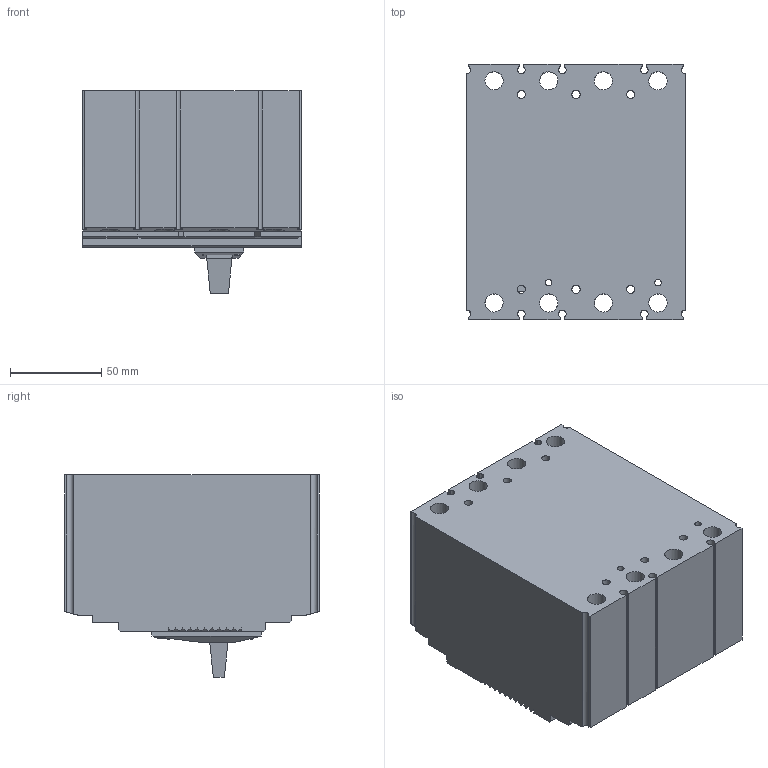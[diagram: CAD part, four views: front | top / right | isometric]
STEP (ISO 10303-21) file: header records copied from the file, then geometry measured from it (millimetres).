
FILE_DESCRIPTION(/* description */ ('','CAx-IF Rec.Pracs.---Representation and Presentation of Product Manufacturing Information (PMI)---3.8---2014-02-18'),/* implementation_level */ '2;1');
FILE_NAME(/* name */ 'E:\3D model\35-susol-mccb-160af-td-4pr.stp',/* time_stamp */ '2017-11-09T14:50:02+03:00',/* author */ ('dobrin'),/* organization */ (''),/* preprocessor_version */ 'ST-DEVELOPER v16.13',/* originating_system */ 'Autodesk Inventor 2018',/* authorisation */ '');
FILE_SCHEMA (('AP242_MANAGED_MODEL_BASED_3D_ENGINEERING_MIM_LF { 1 0 10303 442 1 1 4 }'));
Length unit declared in the file: metre
Products named in the file (1): 35-susol-mccb-160af-td-4pr
Bounding box: 120 x 140 x 111 mm (x, y, z)
Volume: 1326741.8 mm3; surface area: 111217.7 mm2
Topology: 1 solids, 1 shells, 616 faces, 1747 edges, 1156 vertices
Faces by surface type: plane 530, cylinder 58, bspline 16, cone 12
Full cylindrical faces by diameter (mm): 1.9 x1, 2.5 x4, 3.34 x1, 3.6 x2, 4.5 x6, 10 x8
Entity records: 20585 total; most frequent: CARTESIAN_POINT 4597, ORIENTED_EDGE 3408, DIRECTION 3045, EDGE_CURVE 1704, LINE 1503, VECTOR 1503, VERTEX_POINT 1139, AXIS2_PLACEMENT_3D 775
